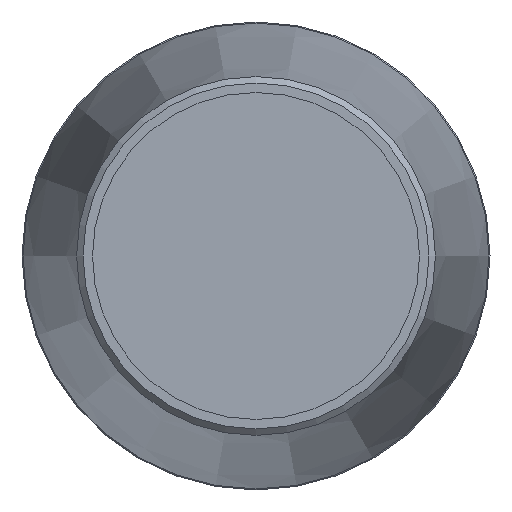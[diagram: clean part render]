
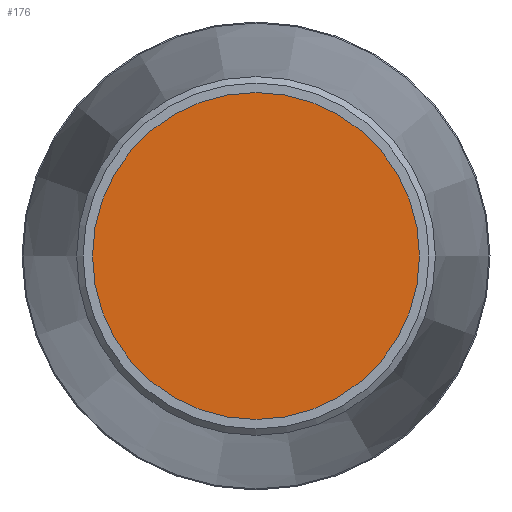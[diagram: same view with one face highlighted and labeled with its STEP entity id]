
A CAD part, left-side view. The second image highlights one B-rep face of the part: STEP entity #176.
In plain terms, the highlighted planar face has unit normal (-1, 0, 0).
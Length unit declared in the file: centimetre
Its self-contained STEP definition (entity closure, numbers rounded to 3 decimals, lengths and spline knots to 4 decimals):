
#18=PLANE('',#199);
#39=FACE_OUTER_BOUND('',#59,.T.);
#59=EDGE_LOOP('',(#129));
#82=CIRCLE('',#198,2.725);
#96=VERTEX_POINT('',#293);
#110=EDGE_CURVE('',#96,#96,#82,.T.);
#129=ORIENTED_EDGE('',*,*,#110,.T.);
#176=ADVANCED_FACE('',(#39),#18,.T.);
#198=AXIS2_PLACEMENT_3D('',#294,#239,#240);
#199=AXIS2_PLACEMENT_3D('',#295,#241,#242);
#239=DIRECTION('center_axis',(-1.,0.,0.));
#240=DIRECTION('ref_axis',(0.,0.,1.));
#241=DIRECTION('center_axis',(-1.,0.,0.));
#242=DIRECTION('ref_axis',(0.,0.,1.));
#293=CARTESIAN_POINT('',(-15.9,-2.725,0.));
#294=CARTESIAN_POINT('Origin',(-15.9,0.,0.));
#295=CARTESIAN_POINT('Origin',(-15.9,0.,0.));
